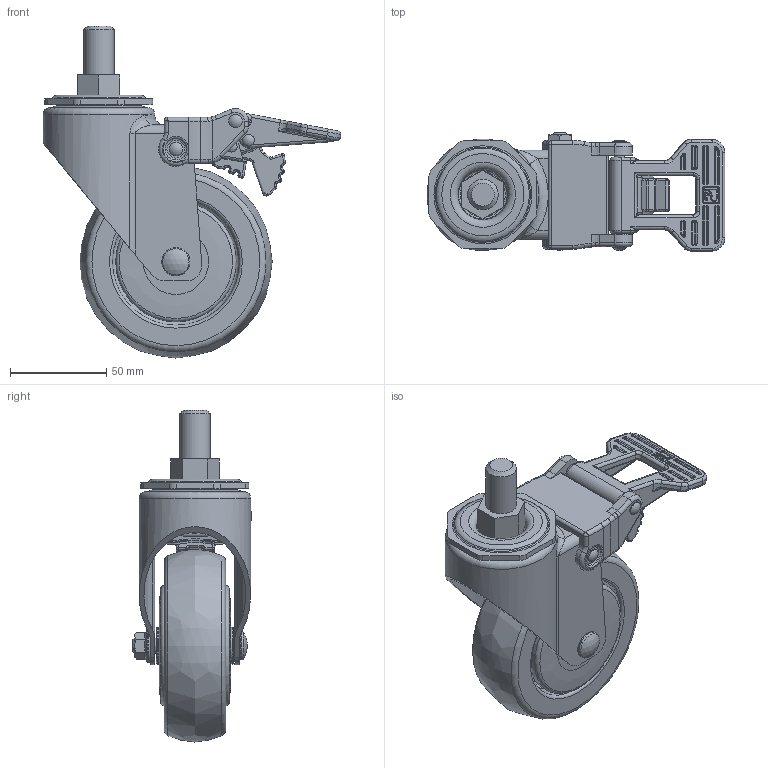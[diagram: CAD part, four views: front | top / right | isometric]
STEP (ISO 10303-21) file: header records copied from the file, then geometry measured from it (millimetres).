
FILE_DESCRIPTION((''),'2;1');
FILE_NAME('C:\Documents and Settings\Administrator\바탕 화면\3D STEP\PL-SERIES\PL-100-BSS\PL-100-BSS.stp','2010-12-27T14:59:34',('Administrator'),(''),'Autodesk Inventor 2009','Autodesk Inventor 2009','');
FILE_SCHEMA(('AUTOMOTIVE_DESIGN { 1 0 10303 214 1 1 1 1 }'));
Length unit declared in the file: millimetre
Products named in the file (1): PL-100-BSS
Bounding box: 154.68 x 61.5 x 172.4 mm (x, y, z)
Volume: 317888.7 mm3; surface area: 138819.8 mm2
Topology: 12 solids, 12 shells, 1740 faces, 4289 edges, 2519 vertices
Faces by surface type: cylinder 710, plane 478, bspline 242, torus 217, sphere 59, cone 34
Full cylindrical faces by diameter (mm): 4 x2, 4.2 x8, 5 x2, 5.2 x7, 6 x4, 7 x4, 8 x1, 8.2 x2, 12.5 x1, 14.6 x1, 15 x3, 15.5 x1, 15.875 x1, 16.9 x1, 17 x2, 19 x2, 21.667 x2, 21.867 x2, 24.667 x2, 28.133 x2, 28.333 x2, 32.333 x2, 32.4 x2, 34 x1, 36 x1, 40 x1, 41 x1, 43 x2, 47 x2, 53 x1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
Entity records: 60565 total; most frequent: CARTESIAN_POINT 21293, DIRECTION 8595, ORIENTED_EDGE 7810, EDGE_CURVE 3905, AXIS2_PLACEMENT_3D 3475, VERTEX_POINT 2435, EDGE_LOOP 2058, CIRCLE 1870
